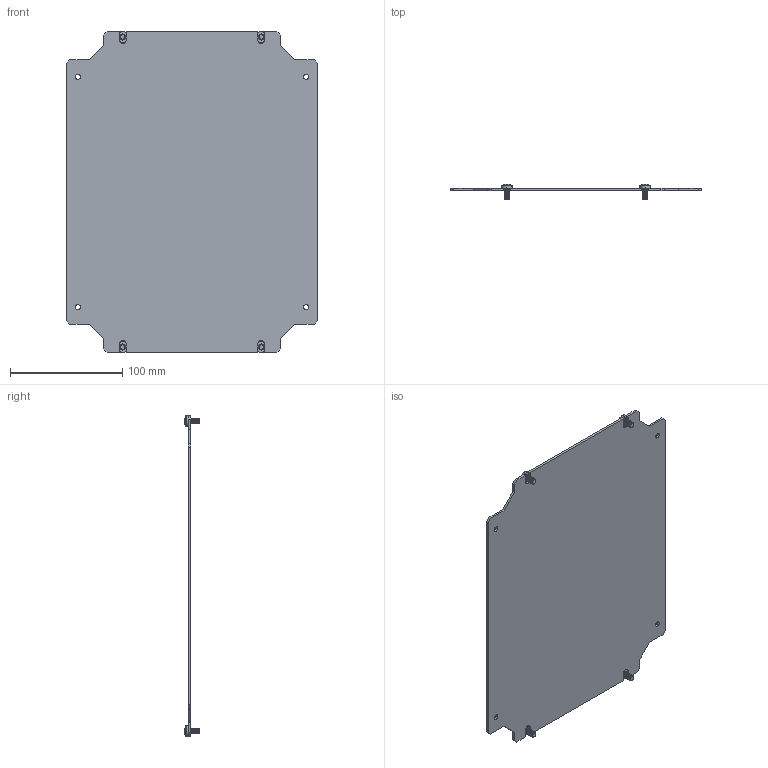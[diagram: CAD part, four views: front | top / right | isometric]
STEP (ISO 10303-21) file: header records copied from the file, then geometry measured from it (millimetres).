
FILE_DESCRIPTION (( 'STEP AP214' ), '1' );
FILE_NAME ('943.223--DM Small 250 W x 300 H Mounting Plate.STEP', '2020-12-03T10:24:00', ( '' ), ( '' ), 'SwSTEP 2.0', 'SolidWorks 2019', '' );
FILE_SCHEMA (( 'AUTOMOTIVE_DESIGN' ));
Length unit declared in the file: millimetre
Products named in the file (8): 943.223--DM Small 250 W x 300 H Mounting Plate; M5x10; M5x10_ISO 7045 - M5 x 10 - Z --- 10C; DM Small Montaj Plakasi 2mm; DM Small Montaj Plakasi 2mm_PP 20.0105 - 250x300
Assembly tree (5 placements, depth 2):
  943.223--DM Small 250 W x 300 H Mounting Plate
    DM Small Montaj Plakasi 2mm_PP 20.0105 - 250x300
    M5x10_ISO 7045 - M5 x 10 - Z --- 10C  x4
  M5x10
  M5x10
  DM Small Montaj Plakasi 2mm
  M5x10
Bounding box: 223 x 13.63 x 285.12 mm (x, y, z)
Volume: 121971.9 mm3; surface area: 124533.7 mm2
Topology: 5 solids, 5 shells, 460 faces, 1214 edges, 760 vertices
Faces by surface type: cone 208, cylinder 118, plane 110, torus 16, sphere 8
Entity records: 5136 total; most frequent: DIRECTION 922, CARTESIAN_POINT 866, ORIENTED_EDGE 828, EDGE_CURVE 414, AXIS2_PLACEMENT_3D 353, VERTEX_POINT 265, VECTOR 216, LINE 216
